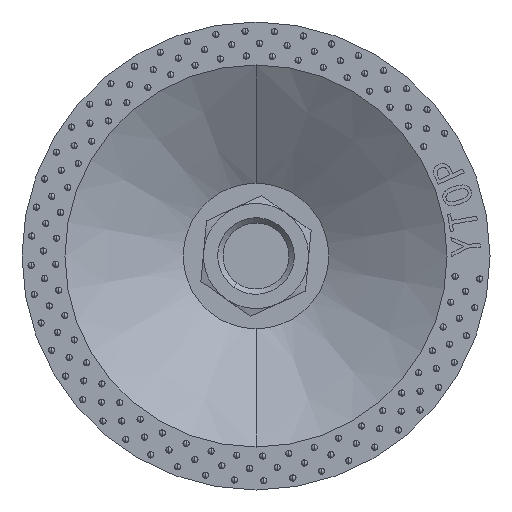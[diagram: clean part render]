
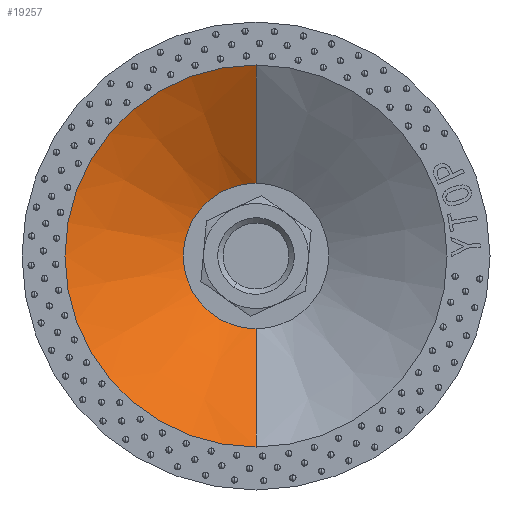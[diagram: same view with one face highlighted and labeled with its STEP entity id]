
A CAD part, front view. The second image highlights one B-rep face of the part: STEP entity #19257.
In plain terms, the highlighted conical face has half-angle 58.836 degrees and reference radius 40 mm.
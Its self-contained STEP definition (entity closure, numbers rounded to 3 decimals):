
#2102 = EDGE_CURVE ( 'NONE', #8955, #7016, #8089, .T. ) ;
#2936 = AXIS2_PLACEMENT_3D ( 'NONE', #3648, #7568, #5331 ) ;
#3249 = DIRECTION ( 'NONE',  ( 0., 1., 0. ) ) ;
#3648 = CARTESIAN_POINT ( 'NONE',  ( 0., 4.932, 0. ) ) ;
#4492 = CARTESIAN_POINT ( 'NONE',  ( 0., 4.932, 40. ) ) ;
#4659 = LINE ( 'NONE', #13871, #20565 ) ;
#5331 = DIRECTION ( 'NONE',  ( 0., 0., -1. ) ) ;
#5400 = VERTEX_POINT ( 'NONE', #17499 ) ;
#5642 = CARTESIAN_POINT ( 'NONE',  ( 0., 4.932, 40. ) ) ;
#7016 = VERTEX_POINT ( 'NONE', #5642 ) ;
#7396 = ORIENTED_EDGE ( 'NONE', *, *, #24205, .T. ) ;
#7568 = DIRECTION ( 'NONE',  ( 0., -1., 0. ) ) ;
#7922 = EDGE_CURVE ( 'NONE', #5400, #13700, #10892, .T. ) ;
#7927 = ORIENTED_EDGE ( 'NONE', *, *, #2102, .F. ) ;
#8089 = CIRCLE ( 'NONE', #14944, 40. ) ;
#8955 = VERTEX_POINT ( 'NONE', #11689 ) ;
#9203 = FACE_OUTER_BOUND ( 'NONE', #11677, .T. ) ;
#10210 = AXIS2_PLACEMENT_3D ( 'NONE', #24652, #24396, #18486 ) ;
#10444 = VECTOR ( 'NONE', #22345, 1000. ) ;
#10892 = CIRCLE ( 'NONE', #10210, 15.25 ) ;
#11677 = EDGE_LOOP ( 'NONE', ( #18549, #7396, #7927, #13202 ) ) ;
#11689 = CARTESIAN_POINT ( 'NONE',  ( 0., 4.932, -40. ) ) ;
#13202 = ORIENTED_EDGE ( 'NONE', *, *, #21037, .F. ) ;
#13691 = CONICAL_SURFACE ( 'NONE', #2936, 40., 1.027 ) ;
#13700 = VERTEX_POINT ( 'NONE', #18716 ) ;
#13871 = CARTESIAN_POINT ( 'NONE',  ( 0., 4.932, -40. ) ) ;
#14944 = AXIS2_PLACEMENT_3D ( 'NONE', #22744, #3249, #16675 ) ;
#16173 = LINE ( 'NONE', #4492, #10444 ) ;
#16675 = DIRECTION ( 'NONE',  ( 0., 0., 1. ) ) ;
#17499 = CARTESIAN_POINT ( 'NONE',  ( 0., 19.9, -15.25 ) ) ;
#18486 = DIRECTION ( 'NONE',  ( 0., 0., 1. ) ) ;
#18549 = ORIENTED_EDGE ( 'NONE', *, *, #7922, .T. ) ;
#18716 = CARTESIAN_POINT ( 'NONE',  ( 0., 19.9, 15.25 ) ) ;
#19257 = ADVANCED_FACE ( 'NONE', ( #9203 ), #13691, .F. ) ;
#20565 = VECTOR ( 'NONE', #23661, 1000. ) ;
#21037 = EDGE_CURVE ( 'NONE', #5400, #8955, #4659, .T. ) ;
#22345 = DIRECTION ( 'NONE',  ( 0., -0.517, 0.856 ) ) ;
#22744 = CARTESIAN_POINT ( 'NONE',  ( 0., 4.932, 0. ) ) ;
#23661 = DIRECTION ( 'NONE',  ( 0., -0.517, -0.856 ) ) ;
#24205 = EDGE_CURVE ( 'NONE', #13700, #7016, #16173, .T. ) ;
#24396 = DIRECTION ( 'NONE',  ( 0., 1., 0. ) ) ;
#24652 = CARTESIAN_POINT ( 'NONE',  ( 0., 19.9, 0. ) ) ;
